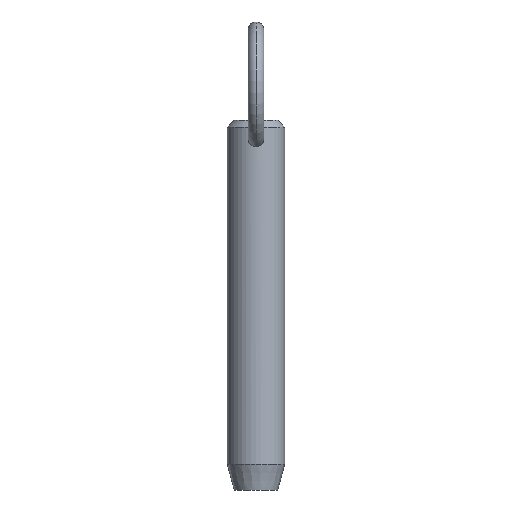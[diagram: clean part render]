
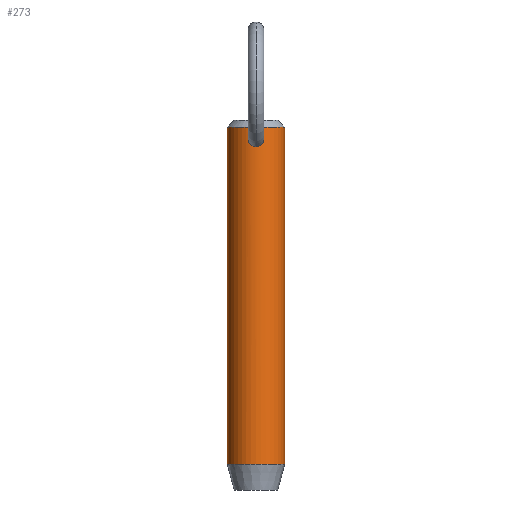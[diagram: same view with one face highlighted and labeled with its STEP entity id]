
A CAD part, front view. The second image highlights one B-rep face of the part: STEP entity #273.
In plain terms, the highlighted cylindrical face has radius 5.55 mm (diameter 11.1 mm), a partial arc.
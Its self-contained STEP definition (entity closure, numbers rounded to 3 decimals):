
#1 = EDGE_CURVE ( 'NONE', #398, #20, #103, .T. ) ;
#3 = CARTESIAN_POINT ( 'NONE',  ( -5.55, 0., 50.8 ) ) ;
#4 = CARTESIAN_POINT ( 'NONE',  ( 1.055, -5.449, 52.505 ) ) ;
#5 = VERTEX_POINT ( 'NONE', #299 ) ;
#18 = FACE_BOUND ( 'NONE', #25, .T. ) ;
#20 = VERTEX_POINT ( 'NONE', #421 ) ;
#25 = EDGE_LOOP ( 'NONE', ( #418, #165 ) ) ;
#26 = CARTESIAN_POINT ( 'NONE',  ( -1.195, -5.421, 54.771 ) ) ;
#30 = DIRECTION ( 'NONE',  ( 0., 0., -1. ) ) ;
#42 = CARTESIAN_POINT ( 'NONE',  ( 0.977, -5.464, 52.432 ) ) ;
#57 = EDGE_CURVE ( 'NONE', #338, #483, #498, .T. ) ;
#61 = AXIS2_PLACEMENT_3D ( 'NONE', #351, #190, #147 ) ;
#65 = CARTESIAN_POINT ( 'NONE',  ( -0.513, -5.527, 55.423 ) ) ;
#67 = CARTESIAN_POINT ( 'NONE',  ( -0.976, -5.464, 52.431 ) ) ;
#74 = CARTESIAN_POINT ( 'NONE',  ( 1.486, -5.347, 53.974 ) ) ;
#78 = CARTESIAN_POINT ( 'NONE',  ( 0., 0., -9.2 ) ) ;
#80 = CARTESIAN_POINT ( 'NONE',  ( 0.107, -5.55, 52.077 ) ) ;
#103 = LINE ( 'NONE', #218, #522 ) ;
#104 = CARTESIAN_POINT ( 'NONE',  ( -1.455, -5.356, 53.236 ) ) ;
#105 = CARTESIAN_POINT ( 'NONE',  ( -0.42, -5.535, 52.132 ) ) ;
#108 = AXIS2_PLACEMENT_3D ( 'NONE', #78, #362, #365 ) ;
#109 = CARTESIAN_POINT ( 'NONE',  ( -0.716, -5.504, 52.252 ) ) ;
#110 = CARTESIAN_POINT ( 'NONE',  ( 1.455, -5.356, 53.238 ) ) ;
#114 = CARTESIAN_POINT ( 'NONE',  ( 1.194, -5.422, 54.771 ) ) ;
#121 = VERTEX_POINT ( 'NONE', #182 ) ;
#122 = CARTESIAN_POINT ( 'NONE',  ( -5.55, 0., -9.2 ) ) ;
#124 = CARTESIAN_POINT ( 'NONE',  ( 1.363, -5.38, 52.934 ) ) ;
#126 = CYLINDRICAL_SURFACE ( 'NONE', #368, 5.55 ) ;
#127 = CARTESIAN_POINT ( 'NONE',  ( 0.523, -5.526, 52.166 ) ) ;
#130 = DIRECTION ( 'NONE',  ( 0., 0., -1. ) ) ;
#133 = DIRECTION ( 'NONE',  ( 0., 0., -1. ) ) ;
#145 = CARTESIAN_POINT ( 'NONE',  ( -1.294, -5.398, 54.586 ) ) ;
#147 = DIRECTION ( 'NONE',  ( 1., 0., 0. ) ) ;
#150 = CARTESIAN_POINT ( 'NONE',  ( -0.939, -5.472, 55.11 ) ) ;
#152 = DIRECTION ( 'NONE',  ( -1., 0., 0. ) ) ;
#153 = CARTESIAN_POINT ( 'NONE',  ( -1.054, -5.449, 52.504 ) ) ;
#155 = CIRCLE ( 'NONE', #108, 5.55 ) ;
#160 = CARTESIAN_POINT ( 'NONE',  ( 1.503, -5.343, 53.659 ) ) ;
#162 = FACE_OUTER_BOUND ( 'NONE', #314, .T. ) ;
#165 = ORIENTED_EDGE ( 'NONE', *, *, #331, .T. ) ;
#182 = CARTESIAN_POINT ( 'NONE',  ( 0., -5.55, 55.545 ) ) ;
#190 = DIRECTION ( 'NONE',  ( 0., 0., -1. ) ) ;
#204 = CARTESIAN_POINT ( 'NONE',  ( 0.807, -5.492, 52.306 ) ) ;
#218 = CARTESIAN_POINT ( 'NONE',  ( 5.55, 0., 50.8 ) ) ;
#232 = CARTESIAN_POINT ( 'NONE',  ( -0.523, -5.526, 52.166 ) ) ;
#235 = CARTESIAN_POINT ( 'NONE',  ( -1.477, -5.35, 53.342 ) ) ;
#238 = CIRCLE ( 'NONE', #61, 5.55 ) ;
#245 = ORIENTED_EDGE ( 'NONE', *, *, #1, .F. ) ;
#252 = EDGE_CURVE ( 'NONE', #398, #338, #238, .T. ) ;
#269 = ORIENTED_EDGE ( 'NONE', *, *, #57, .T. ) ;
#273 = ADVANCED_FACE ( 'NONE', ( #162, #18 ), #126, .T. ) ;
#274 = CARTESIAN_POINT ( 'NONE',  ( -0.785, -5.497, 55.258 ) ) ;
#278 = CARTESIAN_POINT ( 'NONE',  ( -0.106, -5.55, 55.545 ) ) ;
#283 = CARTESIAN_POINT ( 'NONE',  ( -1.485, -5.348, 53.979 ) ) ;
#284 = ORIENTED_EDGE ( 'NONE', *, *, #399, .T. ) ;
#289 = CARTESIAN_POINT ( 'NONE',  ( 0.941, -5.471, 55.107 ) ) ;
#295 = CARTESIAN_POINT ( 'NONE',  ( 0.716, -5.504, 52.252 ) ) ;
#299 = CARTESIAN_POINT ( 'NONE',  ( 0., -5.55, 52.077 ) ) ;
#310 = B_SPLINE_CURVE_WITH_KNOTS ( 'NONE', 3,
 ( #446, #487, #484, #442, #440, #320, #289, #114, #403, #316, #74, #160, #444, #358, #110, #124, #372, #4, #42, #204, #295, #127, #323, #369, #80, #328 ),
 .UNSPECIFIED., .F., .F.,
 ( 4, 2, 2, 2, 2, 2, 2, 2, 2, 2, 2, 2, 4 ),
 ( 0.005, 0.005, 0.005, 0.006, 0.006, 0.007, 0.007, 0.008, 0.008, 0.009, 0.009, 0.009, 0.01 ),
 .UNSPECIFIED. ) ;
#311 = CARTESIAN_POINT ( 'NONE',  ( -0.807, -5.492, 52.305 ) ) ;
#312 = CARTESIAN_POINT ( 'NONE',  ( 0., -5.55, 55.545 ) ) ;
#314 = EDGE_LOOP ( 'NONE', ( #245, #471, #269, #284 ) ) ;
#316 = CARTESIAN_POINT ( 'NONE',  ( 1.44, -5.36, 54.186 ) ) ;
#320 = CARTESIAN_POINT ( 'NONE',  ( 0.786, -5.497, 55.257 ) ) ;
#322 = CARTESIAN_POINT ( 'NONE',  ( 5.55, 0., 55.85 ) ) ;
#323 = CARTESIAN_POINT ( 'NONE',  ( 0.421, -5.535, 52.132 ) ) ;
#328 = CARTESIAN_POINT ( 'NONE',  ( 0., -5.55, 52.077 ) ) ;
#331 = EDGE_CURVE ( 'NONE', #5, #121, #433, .T. ) ;
#338 = VERTEX_POINT ( 'NONE', #514 ) ;
#351 = CARTESIAN_POINT ( 'NONE',  ( 0., 0., 55.85 ) ) ;
#353 = CARTESIAN_POINT ( 'NONE',  ( -1.26, -5.407, 52.742 ) ) ;
#355 = CARTESIAN_POINT ( 'NONE',  ( 0., -5.55, 52.077 ) ) ;
#356 = CARTESIAN_POINT ( 'NONE',  ( -0.107, -5.55, 52.077 ) ) ;
#358 = CARTESIAN_POINT ( 'NONE',  ( 1.477, -5.35, 53.344 ) ) ;
#362 = DIRECTION ( 'NONE',  ( 0., 0., 1. ) ) ;
#365 = DIRECTION ( 'NONE',  ( -1., 0., 0. ) ) ;
#368 = AXIS2_PLACEMENT_3D ( 'NONE', #384, #30, #152 ) ;
#369 = CARTESIAN_POINT ( 'NONE',  ( 0.213, -5.547, 52.088 ) ) ;
#372 = CARTESIAN_POINT ( 'NONE',  ( 1.26, -5.407, 52.743 ) ) ;
#384 = CARTESIAN_POINT ( 'NONE',  ( 0., 0., 50.8 ) ) ;
#392 = CARTESIAN_POINT ( 'NONE',  ( -1.44, -5.36, 54.187 ) ) ;
#398 = VERTEX_POINT ( 'NONE', #322 ) ;
#399 = EDGE_CURVE ( 'NONE', #483, #20, #155, .T. ) ;
#403 = CARTESIAN_POINT ( 'NONE',  ( 1.295, -5.397, 54.582 ) ) ;
#417 = EDGE_CURVE ( 'NONE', #121, #5, #310, .T. ) ;
#418 = ORIENTED_EDGE ( 'NONE', *, *, #417, .T. ) ;
#421 = CARTESIAN_POINT ( 'NONE',  ( 5.55, 0., -9.2 ) ) ;
#433 = B_SPLINE_CURVE_WITH_KNOTS ( 'NONE', 3,
 ( #355, #356, #512, #105, #232, #109, #311, #67, #153, #353, #479, #104, #235, #518, #510, #283, #392, #145, #26, #150, #274, #65, #435, #477, #278, #312 ),
 .UNSPECIFIED., .F., .F.,
 ( 4, 2, 2, 2, 2, 2, 2, 2, 2, 2, 2, 2, 4 ),
 ( 0.01, 0.01, 0.01, 0.011, 0.011, 0.012, 0.012, 0.012, 0.013, 0.013, 0.014, 0.014, 0.015 ),
 .UNSPECIFIED. ) ;
#435 = CARTESIAN_POINT ( 'NONE',  ( -0.416, -5.535, 55.467 ) ) ;
#440 = CARTESIAN_POINT ( 'NONE',  ( 0.515, -5.527, 55.422 ) ) ;
#442 = CARTESIAN_POINT ( 'NONE',  ( 0.417, -5.535, 55.467 ) ) ;
#444 = CARTESIAN_POINT ( 'NONE',  ( 1.5, -5.343, 53.554 ) ) ;
#446 = CARTESIAN_POINT ( 'NONE',  ( 0., -5.55, 55.545 ) ) ;
#464 = VECTOR ( 'NONE', #133, 1000. ) ;
#471 = ORIENTED_EDGE ( 'NONE', *, *, #252, .T. ) ;
#477 = CARTESIAN_POINT ( 'NONE',  ( -0.211, -5.547, 55.529 ) ) ;
#479 = CARTESIAN_POINT ( 'NONE',  ( -1.362, -5.381, 52.932 ) ) ;
#483 = VERTEX_POINT ( 'NONE', #122 ) ;
#484 = CARTESIAN_POINT ( 'NONE',  ( 0.214, -5.547, 55.528 ) ) ;
#487 = CARTESIAN_POINT ( 'NONE',  ( 0.106, -5.55, 55.545 ) ) ;
#498 = LINE ( 'NONE', #3, #464 ) ;
#510 = CARTESIAN_POINT ( 'NONE',  ( -1.503, -5.343, 53.659 ) ) ;
#512 = CARTESIAN_POINT ( 'NONE',  ( -0.212, -5.547, 52.088 ) ) ;
#514 = CARTESIAN_POINT ( 'NONE',  ( -5.55, 0., 55.85 ) ) ;
#518 = CARTESIAN_POINT ( 'NONE',  ( -1.5, -5.343, 53.553 ) ) ;
#522 = VECTOR ( 'NONE', #130, 1000. ) ;
